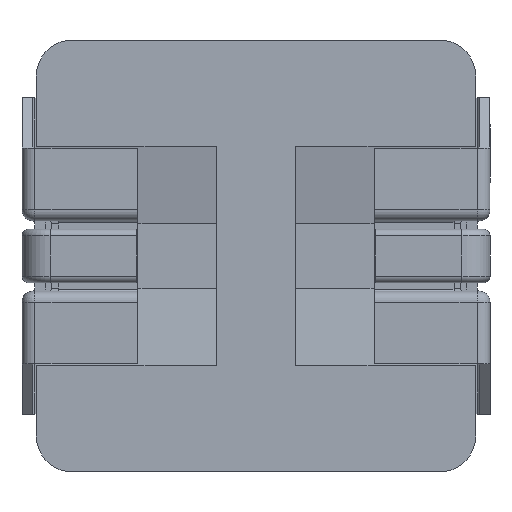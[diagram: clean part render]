
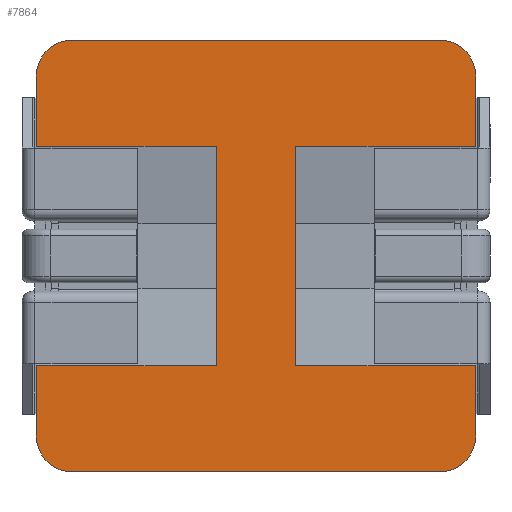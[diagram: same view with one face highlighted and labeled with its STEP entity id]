
A CAD part, front view. The second image highlights one B-rep face of the part: STEP entity #7864.
In plain terms, the highlighted planar face has unit normal (0, -1, 0).
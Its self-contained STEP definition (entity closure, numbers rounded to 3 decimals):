
#15 = CARTESIAN_POINT ( 'NONE',  ( -3.05, -1.94, 3. ) ) ;
#45 = CARTESIAN_POINT ( 'NONE',  ( -0.55, -1.94, -1.525 ) ) ;
#233 = VERTEX_POINT ( 'NONE', #3752 ) ;
#407 = VERTEX_POINT ( 'NONE', #5457 ) ;
#483 = ORIENTED_EDGE ( 'NONE', *, *, #1230, .T. ) ;
#509 = VECTOR ( 'NONE', #8049, 1000. ) ;
#537 = AXIS2_PLACEMENT_3D ( 'NONE', #8351, #3844, #9115 ) ;
#542 = CARTESIAN_POINT ( 'NONE',  ( 3.05, -1.94, 3. ) ) ;
#674 = CARTESIAN_POINT ( 'NONE',  ( 3.05, -1.94, -1.525 ) ) ;
#736 = ORIENTED_EDGE ( 'NONE', *, *, #7095, .F. ) ;
#749 = DIRECTION ( 'NONE',  ( 0., 0., 1. ) ) ;
#821 = DIRECTION ( 'NONE',  ( 0., -1., 0. ) ) ;
#891 = VERTEX_POINT ( 'NONE', #6730 ) ;
#1034 = AXIS2_PLACEMENT_3D ( 'NONE', #3877, #9146, #4613 ) ;
#1204 = LINE ( 'NONE', #45, #5168 ) ;
#1230 = EDGE_CURVE ( 'NONE', #3308, #407, #8584, .T. ) ;
#1363 = VERTEX_POINT ( 'NONE', #1712 ) ;
#1698 = CARTESIAN_POINT ( 'NONE',  ( 0.55, -1.94, -1.525 ) ) ;
#1712 = CARTESIAN_POINT ( 'NONE',  ( 3.05, -1.94, -2.5 ) ) ;
#1752 = VERTEX_POINT ( 'NONE', #6127 ) ;
#1799 = CARTESIAN_POINT ( 'NONE',  ( 0.55, -1.94, 1.525 ) ) ;
#1802 = VECTOR ( 'NONE', #3248, 1000. ) ;
#1844 = EDGE_CURVE ( 'NONE', #9468, #7145, #5314, .T. ) ;
#1852 = DIRECTION ( 'NONE',  ( 0., 0., 1. ) ) ;
#1913 = EDGE_CURVE ( 'NONE', #7674, #1363, #4707, .T. ) ;
#2044 = LINE ( 'NONE', #1698, #1802 ) ;
#2103 = ORIENTED_EDGE ( 'NONE', *, *, #1844, .T. ) ;
#2112 = CARTESIAN_POINT ( 'NONE',  ( 2.55, -1.94, -3. ) ) ;
#2200 = CARTESIAN_POINT ( 'NONE',  ( -0.55, -1.94, -1.525 ) ) ;
#2410 = VERTEX_POINT ( 'NONE', #9539 ) ;
#2534 = CARTESIAN_POINT ( 'NONE',  ( 3.05, -1.94, 2.5 ) ) ;
#2535 = CARTESIAN_POINT ( 'NONE',  ( -2.55, -1.94, 3. ) ) ;
#2584 = EDGE_CURVE ( 'NONE', #2867, #7890, #1204, .T. ) ;
#2586 = VECTOR ( 'NONE', #4930, 1000. ) ;
#2658 = VECTOR ( 'NONE', #1852, 1000. ) ;
#2663 = EDGE_CURVE ( 'NONE', #3385, #8819, #8347, .T. ) ;
#2806 = VECTOR ( 'NONE', #4378, 1000. ) ;
#2807 = EDGE_CURVE ( 'NONE', #2867, #233, #6799, .T. ) ;
#2867 = VERTEX_POINT ( 'NONE', #2200 ) ;
#2932 = ORIENTED_EDGE ( 'NONE', *, *, #6089, .F. ) ;
#3015 = ORIENTED_EDGE ( 'NONE', *, *, #6607, .T. ) ;
#3248 = DIRECTION ( 'NONE',  ( 0., 0., 1. ) ) ;
#3308 = VERTEX_POINT ( 'NONE', #2535 ) ;
#3385 = VERTEX_POINT ( 'NONE', #2112 ) ;
#3425 = ORIENTED_EDGE ( 'NONE', *, *, #2584, .T. ) ;
#3454 = CARTESIAN_POINT ( 'NONE',  ( -2.55, -1.94, -2.5 ) ) ;
#3476 = AXIS2_PLACEMENT_3D ( 'NONE', #5291, #821, #6069 ) ;
#3609 = VECTOR ( 'NONE', #8122, 1000. ) ;
#3669 = VECTOR ( 'NONE', #8642, 1000. ) ;
#3752 = CARTESIAN_POINT ( 'NONE',  ( -0.55, -1.94, 1.525 ) ) ;
#3844 = DIRECTION ( 'NONE',  ( 0., -1., 0. ) ) ;
#3877 = CARTESIAN_POINT ( 'NONE',  ( 0., -1.94, 0. ) ) ;
#3931 = EDGE_CURVE ( 'NONE', #3308, #891, #7961, .T. ) ;
#4062 = DIRECTION ( 'NONE',  ( 0., -1., 0. ) ) ;
#4156 = CIRCLE ( 'NONE', #7423, 0.5 ) ;
#4197 = DIRECTION ( 'NONE',  ( 0., 0., -1. ) ) ;
#4201 = DIRECTION ( 'NONE',  ( 1., 0., 0. ) ) ;
#4329 = CIRCLE ( 'NONE', #537, 0.5 ) ;
#4371 = EDGE_CURVE ( 'NONE', #8334, #8819, #4156, .T. ) ;
#4378 = DIRECTION ( 'NONE',  ( 0., 0., 1. ) ) ;
#4406 = EDGE_CURVE ( 'NONE', #4835, #7145, #5212, .T. ) ;
#4454 = CARTESIAN_POINT ( 'NONE',  ( -2.55, -1.94, -3. ) ) ;
#4561 = ORIENTED_EDGE ( 'NONE', *, *, #3931, .F. ) ;
#4613 = DIRECTION ( 'NONE',  ( 0., 0., -1. ) ) ;
#4707 = LINE ( 'NONE', #7164, #3669 ) ;
#4835 = VERTEX_POINT ( 'NONE', #2534 ) ;
#4863 = ORIENTED_EDGE ( 'NONE', *, *, #5518, .F. ) ;
#4899 = CARTESIAN_POINT ( 'NONE',  ( -3.05, -1.94, -2.5 ) ) ;
#4903 = ORIENTED_EDGE ( 'NONE', *, *, #8130, .T. ) ;
#4930 = DIRECTION ( 'NONE',  ( -1., 0., 0. ) ) ;
#4964 = VECTOR ( 'NONE', #9510, 1000. ) ;
#5074 = FACE_OUTER_BOUND ( 'NONE', #6355, .T. ) ;
#5129 = CARTESIAN_POINT ( 'NONE',  ( -0.55, -1.94, -1.525 ) ) ;
#5168 = VECTOR ( 'NONE', #5243, 1000. ) ;
#5207 = ORIENTED_EDGE ( 'NONE', *, *, #2807, .F. ) ;
#5212 = LINE ( 'NONE', #542, #4964 ) ;
#5243 = DIRECTION ( 'NONE',  ( -1., 0., 0. ) ) ;
#5272 = CARTESIAN_POINT ( 'NONE',  ( 3.05, -1.94, 1.525 ) ) ;
#5291 = CARTESIAN_POINT ( 'NONE',  ( -2.55, -1.94, 2.5 ) ) ;
#5314 = LINE ( 'NONE', #1799, #6264 ) ;
#5364 = PLANE ( 'NONE',  #1034 ) ;
#5457 = CARTESIAN_POINT ( 'NONE',  ( -3.05, -1.94, 2.5 ) ) ;
#5518 = EDGE_CURVE ( 'NONE', #1752, #407, #9422, .T. ) ;
#5707 = VECTOR ( 'NONE', #4201, 1000. ) ;
#5974 = CARTESIAN_POINT ( 'NONE',  ( 0.55, -1.94, 1.525 ) ) ;
#6069 = DIRECTION ( 'NONE',  ( 0., 0., -1. ) ) ;
#6089 = EDGE_CURVE ( 'NONE', #2410, #7674, #6230, .T. ) ;
#6127 = CARTESIAN_POINT ( 'NONE',  ( -3.05, -1.94, 1.525 ) ) ;
#6230 = LINE ( 'NONE', #7309, #509 ) ;
#6264 = VECTOR ( 'NONE', #6282, 1000. ) ;
#6282 = DIRECTION ( 'NONE',  ( 1., 0., 0. ) ) ;
#6324 = ORIENTED_EDGE ( 'NONE', *, *, #4371, .T. ) ;
#6355 = EDGE_LOOP ( 'NONE', ( #4561, #483, #4863, #736, #5207, #3425, #8627, #6324, #9553, #3015, #8000, #2932, #4903, #2103, #6878, #9575 ) ) ;
#6607 = EDGE_CURVE ( 'NONE', #3385, #1363, #4329, .T. ) ;
#6644 = LINE ( 'NONE', #7858, #2658 ) ;
#6730 = CARTESIAN_POINT ( 'NONE',  ( 2.55, -1.94, 3. ) ) ;
#6784 = EDGE_CURVE ( 'NONE', #4835, #891, #8451, .T. ) ;
#6799 = LINE ( 'NONE', #5129, #2806 ) ;
#6878 = ORIENTED_EDGE ( 'NONE', *, *, #4406, .F. ) ;
#7095 = EDGE_CURVE ( 'NONE', #233, #1752, #9377, .T. ) ;
#7145 = VERTEX_POINT ( 'NONE', #5272 ) ;
#7164 = CARTESIAN_POINT ( 'NONE',  ( 3.05, -1.94, 3. ) ) ;
#7309 = CARTESIAN_POINT ( 'NONE',  ( 0.55, -1.94, -1.525 ) ) ;
#7421 = VECTOR ( 'NONE', #749, 1000. ) ;
#7423 = AXIS2_PLACEMENT_3D ( 'NONE', #3454, #8715, #4197 ) ;
#7432 = CARTESIAN_POINT ( 'NONE',  ( -3.05, -1.94, -1.525 ) ) ;
#7557 = AXIS2_PLACEMENT_3D ( 'NONE', #8566, #4062, #9335 ) ;
#7674 = VERTEX_POINT ( 'NONE', #674 ) ;
#7858 = CARTESIAN_POINT ( 'NONE',  ( -3.05, -1.94, 3. ) ) ;
#7864 = ADVANCED_FACE ( 'NONE', ( #5074 ), #5364, .T. ) ;
#7890 = VERTEX_POINT ( 'NONE', #7432 ) ;
#7961 = LINE ( 'NONE', #7985, #5707 ) ;
#7985 = CARTESIAN_POINT ( 'NONE',  ( -3.05, -1.94, 3. ) ) ;
#8000 = ORIENTED_EDGE ( 'NONE', *, *, #1913, .F. ) ;
#8049 = DIRECTION ( 'NONE',  ( 1., 0., 0. ) ) ;
#8122 = DIRECTION ( 'NONE',  ( -1., 0., 0. ) ) ;
#8130 = EDGE_CURVE ( 'NONE', #2410, #9468, #2044, .T. ) ;
#8334 = VERTEX_POINT ( 'NONE', #4899 ) ;
#8347 = LINE ( 'NONE', #9470, #2586 ) ;
#8351 = CARTESIAN_POINT ( 'NONE',  ( 2.55, -1.94, -2.5 ) ) ;
#8451 = CIRCLE ( 'NONE', #7557, 0.5 ) ;
#8566 = CARTESIAN_POINT ( 'NONE',  ( 2.55, -1.94, 2.5 ) ) ;
#8584 = CIRCLE ( 'NONE', #3476, 0.5 ) ;
#8627 = ORIENTED_EDGE ( 'NONE', *, *, #9248, .F. ) ;
#8642 = DIRECTION ( 'NONE',  ( 0., 0., -1. ) ) ;
#8715 = DIRECTION ( 'NONE',  ( 0., -1., 0. ) ) ;
#8819 = VERTEX_POINT ( 'NONE', #4454 ) ;
#8927 = CARTESIAN_POINT ( 'NONE',  ( -0.55, -1.94, 1.525 ) ) ;
#9115 = DIRECTION ( 'NONE',  ( 0., 0., -1. ) ) ;
#9146 = DIRECTION ( 'NONE',  ( 0., -1., 0. ) ) ;
#9248 = EDGE_CURVE ( 'NONE', #8334, #7890, #6644, .T. ) ;
#9335 = DIRECTION ( 'NONE',  ( 0., 0., -1. ) ) ;
#9377 = LINE ( 'NONE', #8927, #3609 ) ;
#9422 = LINE ( 'NONE', #15, #7421 ) ;
#9468 = VERTEX_POINT ( 'NONE', #5974 ) ;
#9470 = CARTESIAN_POINT ( 'NONE',  ( -3.05, -1.94, -3. ) ) ;
#9510 = DIRECTION ( 'NONE',  ( 0., 0., -1. ) ) ;
#9539 = CARTESIAN_POINT ( 'NONE',  ( 0.55, -1.94, -1.525 ) ) ;
#9553 = ORIENTED_EDGE ( 'NONE', *, *, #2663, .F. ) ;
#9575 = ORIENTED_EDGE ( 'NONE', *, *, #6784, .T. ) ;
